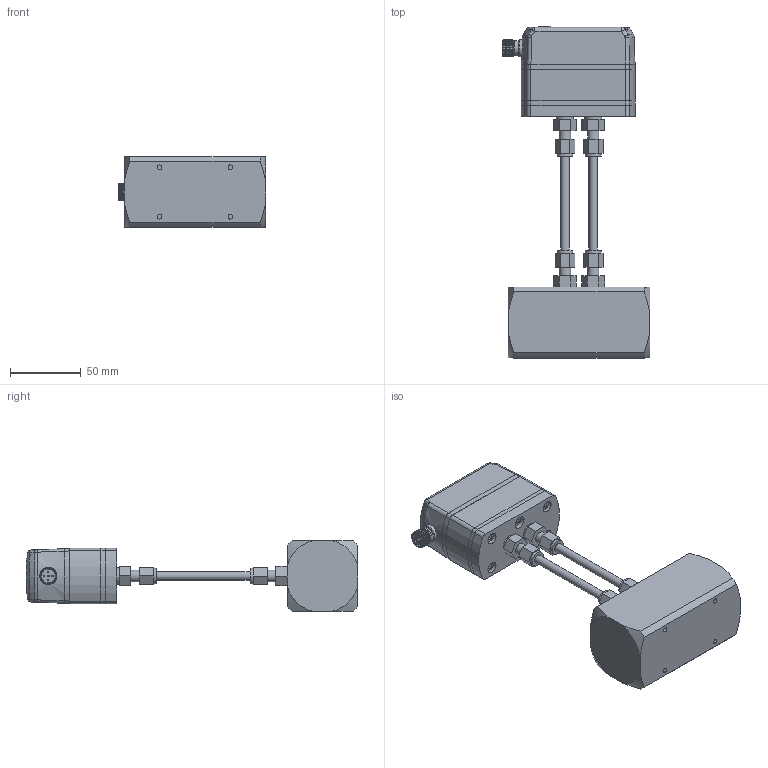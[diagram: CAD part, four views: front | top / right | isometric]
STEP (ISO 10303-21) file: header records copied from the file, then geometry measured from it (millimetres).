
FILE_DESCRIPTION( (''), '2;1');
FILE_NAME( 'QEKH_DN20_female-thread_high-temp.step', '2025-04-28T16:12:53+08:00', (''), (''), '', '', '');
FILE_SCHEMA (('AUTOMOTIVE_DESIGN { 1 0 10303 214 3 1 1 1 }'));
Products named in the file (1): QEKH DN20_female-thread_high-temp
Bounding box: 104.21 x 234.4 x 50 mm (x, y, z)
Volume: 454721.1 mm3; surface area: 108654.1 mm2
Topology: 30 solids, 33 shells, 1606 faces, 3948 edges, 2528 vertices
Faces by surface type: plane 805, cylinder 301, extrusion 239, cone 152, torus 52, bspline 48, sphere 9
Full cylindrical faces by diameter (mm): 1 x10, 2.05 x4, 2.6 x4, 2.7 x5, 2.874 x4, 3 x6, 3.1 x1, 3.3 x10, 3.5 x7, 3.838 x6, 4.5 x12, 5 x2, 5.5 x10, 6 x6, 7 x6, 8 x8, 9 x2, 9.8 x2, 10.8 x1, 11 x4, 11.992 x2, 12 x14, 14 x2, 14.5 x2, 17 x2, 19.1 x6
Entity records: 52889 total; most frequent: CARTESIAN_POINT 16739, ORIENTED_EDGE 7268, DIRECTION 6637, EDGE_CURVE 3634, VERTEX_POINT 2456, VECTOR 2239, AXIS2_PLACEMENT_3D 2199, EDGE_LOOP 2018
